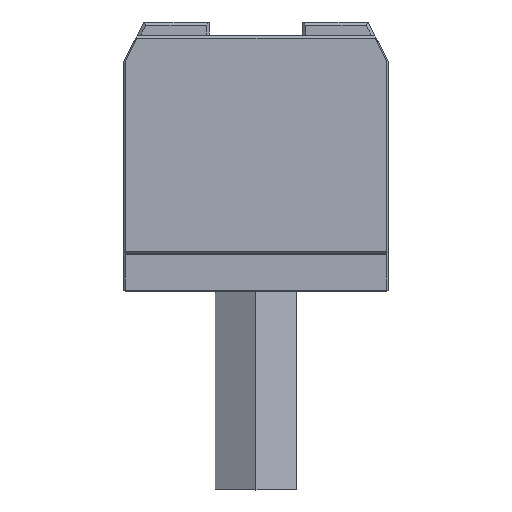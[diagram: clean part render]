
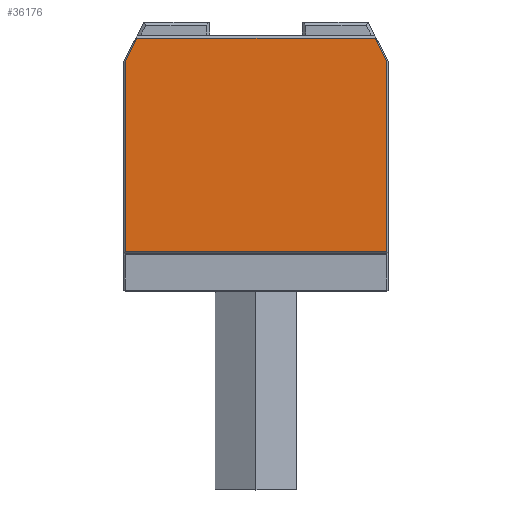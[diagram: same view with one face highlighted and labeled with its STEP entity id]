
A CAD part, top view. The second image highlights one B-rep face of the part: STEP entity #36176.
In plain terms, the highlighted planar face has unit normal (0, 0, 1).
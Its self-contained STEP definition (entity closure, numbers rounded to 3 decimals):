
#4564 = EDGE_CURVE ( 'NONE', #53764, #48673, #10380, .T. ) ;
#4858 = CARTESIAN_POINT ( 'NONE',  ( 12.576, 20.003, 54.75 ) ) ;
#7887 = VECTOR ( 'NONE', #46778, 1000. ) ;
#8254 = CARTESIAN_POINT ( 'NONE',  ( 12.576, -8.75, 54.75 ) ) ;
#8585 = EDGE_CURVE ( 'NONE', #11810, #22735, #53036, .T. ) ;
#9942 = EDGE_CURVE ( 'NONE', #22735, #67598, #35462, .T. ) ;
#10380 = LINE ( 'NONE', #24055, #41273 ) ;
#11150 = ORIENTED_EDGE ( 'NONE', *, *, #9942, .T. ) ;
#11152 = LINE ( 'NONE', #55162, #38626 ) ;
#11380 = ORIENTED_EDGE ( 'NONE', *, *, #8585, .T. ) ;
#11810 = VERTEX_POINT ( 'NONE', #30220 ) ;
#17917 = CARTESIAN_POINT ( 'NONE',  ( -25.25, 23.55, 54.75 ) ) ;
#19606 = VECTOR ( 'NONE', #35541, 1000. ) ;
#20768 = LINE ( 'NONE', #40603, #7887 ) ;
#22323 = ORIENTED_EDGE ( 'NONE', *, *, #68472, .T. ) ;
#22735 = VERTEX_POINT ( 'NONE', #17917 ) ;
#23948 = DIRECTION ( 'NONE',  ( 0., 1., 0. ) ) ;
#24055 = CARTESIAN_POINT ( 'NONE',  ( 12.576, 23.55, 54.75 ) ) ;
#29456 = ORIENTED_EDGE ( 'NONE', *, *, #4564, .T. ) ;
#29991 = ORIENTED_EDGE ( 'NONE', *, *, #59208, .T. ) ;
#30220 = CARTESIAN_POINT ( 'NONE',  ( 10.803, 23.55, 54.75 ) ) ;
#33250 = FACE_OUTER_BOUND ( 'NONE', #47056, .T. ) ;
#33772 = VECTOR ( 'NONE', #48396, 1000. ) ;
#34212 = LINE ( 'NONE', #35113, #19606 ) ;
#35113 = CARTESIAN_POINT ( 'NONE',  ( 12.576, -8.75, 54.75 ) ) ;
#35462 = LINE ( 'NONE', #50556, #33772 ) ;
#35541 = DIRECTION ( 'NONE',  ( 1., 0., 0. ) ) ;
#36176 = ADVANCED_FACE ( 'NONE', ( #33250 ), #57450, .T. ) ;
#38522 = VECTOR ( 'NONE', #42600, 1000. ) ;
#38626 = VECTOR ( 'NONE', #60468, 1000. ) ;
#40603 = CARTESIAN_POINT ( 'NONE',  ( -27.024, 23.55, 54.75 ) ) ;
#41101 = CARTESIAN_POINT ( 'NONE',  ( -27.024, 20.003, 54.75 ) ) ;
#41273 = VECTOR ( 'NONE', #23948, 1000. ) ;
#42600 = DIRECTION ( 'NONE',  ( -1., 0., 0. ) ) ;
#43323 = CARTESIAN_POINT ( 'NONE',  ( 12.576, 23.55, 54.75 ) ) ;
#46778 = DIRECTION ( 'NONE',  ( 0., -1., 0. ) ) ;
#47056 = EDGE_LOOP ( 'NONE', ( #22323, #57342, #29456, #29991, #11380, #11150 ) ) ;
#47139 = VERTEX_POINT ( 'NONE', #63269 ) ;
#48396 = DIRECTION ( 'NONE',  ( -0.447, -0.894, 0. ) ) ;
#48673 = VERTEX_POINT ( 'NONE', #4858 ) ;
#50556 = CARTESIAN_POINT ( 'NONE',  ( -25.25, 23.55, 54.75 ) ) ;
#50621 = EDGE_CURVE ( 'NONE', #47139, #53764, #34212, .T. ) ;
#53036 = LINE ( 'NONE', #43323, #38522 ) ;
#53764 = VERTEX_POINT ( 'NONE', #8254 ) ;
#55162 = CARTESIAN_POINT ( 'NONE',  ( 12.576, 20.003, 54.75 ) ) ;
#57320 = DIRECTION ( 'NONE',  ( 1., 0., 0. ) ) ;
#57342 = ORIENTED_EDGE ( 'NONE', *, *, #50621, .T. ) ;
#57363 = DIRECTION ( 'NONE',  ( 0., 0., 1. ) ) ;
#57450 = PLANE ( 'NONE',  #59601 ) ;
#57813 = CARTESIAN_POINT ( 'NONE',  ( 12.576, 23.55, 54.75 ) ) ;
#59208 = EDGE_CURVE ( 'NONE', #48673, #11810, #11152, .T. ) ;
#59601 = AXIS2_PLACEMENT_3D ( 'NONE', #57813, #57363, #57320 ) ;
#60468 = DIRECTION ( 'NONE',  ( -0.447, 0.894, 0. ) ) ;
#63269 = CARTESIAN_POINT ( 'NONE',  ( -27.024, -8.75, 54.75 ) ) ;
#67598 = VERTEX_POINT ( 'NONE', #41101 ) ;
#68472 = EDGE_CURVE ( 'NONE', #67598, #47139, #20768, .T. ) ;
